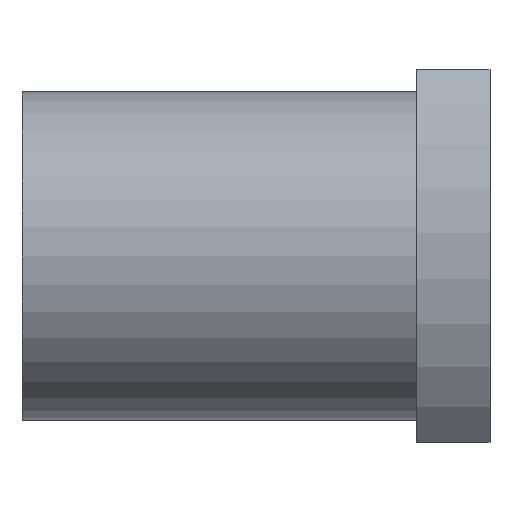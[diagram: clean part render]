
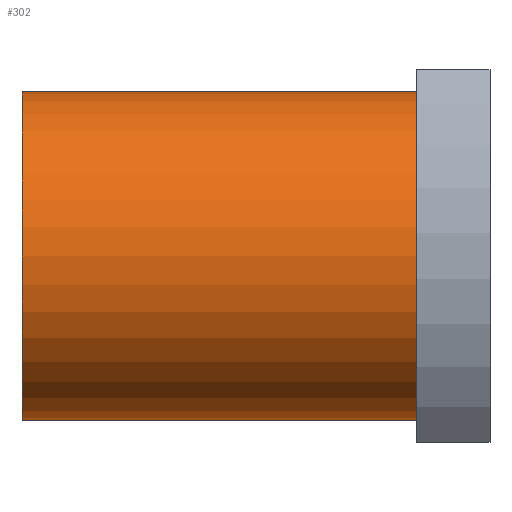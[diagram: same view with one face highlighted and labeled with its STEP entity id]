
A CAD part, front view. The second image highlights one B-rep face of the part: STEP entity #302.
In plain terms, the highlighted cylindrical face has radius 22.5 mm (diameter 45 mm), a full revolution.
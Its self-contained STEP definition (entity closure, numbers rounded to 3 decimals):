
#37=CYLINDRICAL_SURFACE('',#346,22.5);
#60=ORIENTED_EDGE('',*,*,#124,.T.);
#61=ORIENTED_EDGE('',*,*,#125,.T.);
#124=EDGE_CURVE('',#156,#156,#182,.T.);
#125=EDGE_CURVE('',#157,#157,#183,.F.);
#156=VERTEX_POINT('',#508);
#157=VERTEX_POINT('',#510);
#182=CIRCLE('',#347,22.5);
#183=CIRCLE('',#348,22.5);
#205=EDGE_LOOP('',(#60));
#206=EDGE_LOOP('',(#61));
#251=FACE_BOUND('',#205,.T.);
#252=FACE_BOUND('',#206,.T.);
#302=ADVANCED_FACE('',(#251,#252),#37,.T.);
#346=AXIS2_PLACEMENT_3D('',#506,#410,#411);
#347=AXIS2_PLACEMENT_3D('',#507,#412,#413);
#348=AXIS2_PLACEMENT_3D('',#509,#414,#415);
#410=DIRECTION('',(1.,0.,0.));
#411=DIRECTION('',(0.,0.,-1.));
#412=DIRECTION('',(1.,0.,0.));
#413=DIRECTION('',(0.,0.,-1.));
#414=DIRECTION('',(1.,0.,0.));
#415=DIRECTION('',(0.,0.,-1.));
#506=CARTESIAN_POINT('',(-32.,0.,0.));
#507=CARTESIAN_POINT('',(-32.,0.,0.));
#508=CARTESIAN_POINT('',(-32.,0.,-22.5));
#509=CARTESIAN_POINT('',(22.,0.,0.));
#510=CARTESIAN_POINT('',(22.,0.,-22.5));
